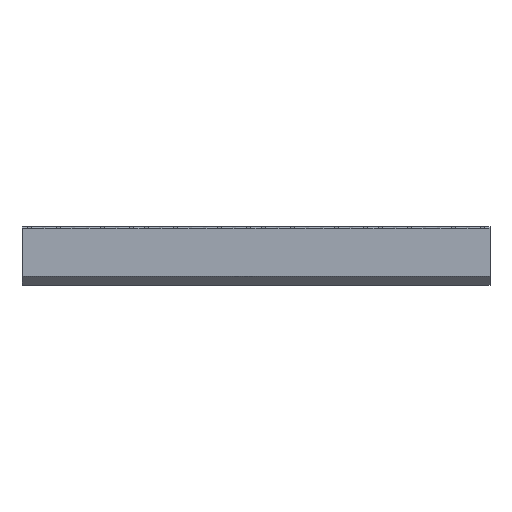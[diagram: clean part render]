
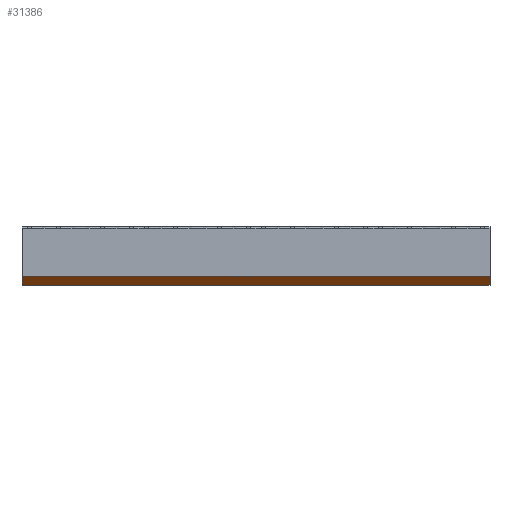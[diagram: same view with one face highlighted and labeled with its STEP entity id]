
A CAD part, front view. The second image highlights one B-rep face of the part: STEP entity #31386.
In plain terms, the highlighted planar face has unit normal (0, -0.707, -0.707).
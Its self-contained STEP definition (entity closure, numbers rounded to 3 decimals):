
#761 = ORIENTED_EDGE ( 'NONE', *, *, #31395, .F. ) ;
#878 = ORIENTED_EDGE ( 'NONE', *, *, #66633, .F. ) ;
#889 = ORIENTED_EDGE ( 'NONE', *, *, #909, .F. ) ;
#909 = EDGE_CURVE ( 'NONE', #43966, #51530, #30510, .T. ) ;
#3356 = DIRECTION ( 'NONE',  ( 0., 0.707, -0.707 ) ) ;
#5118 = VECTOR ( 'NONE', #55171, 1000. ) ;
#6215 = EDGE_CURVE ( 'NONE', #63762, #59902, #60165, .T. ) ;
#7088 = AXIS2_PLACEMENT_3D ( 'NONE', #29322, #50325, #3356 ) ;
#8173 = CARTESIAN_POINT ( 'NONE',  ( -80., -25., 3. ) ) ;
#8600 = PLANE ( 'NONE',  #7088 ) ;
#19879 = LINE ( 'NONE', #33951, #5118 ) ;
#20731 = FACE_OUTER_BOUND ( 'NONE', #30600, .T. ) ;
#24718 = VECTOR ( 'NONE', #34881, 1000. ) ;
#29322 = CARTESIAN_POINT ( 'NONE',  ( -80., -25., 3. ) ) ;
#29907 = CARTESIAN_POINT ( 'NONE',  ( -80., -22., 0. ) ) ;
#30510 = LINE ( 'NONE', #36476, #56901 ) ;
#30600 = EDGE_LOOP ( 'NONE', ( #878, #889, #761, #41122 ) ) ;
#31386 = ADVANCED_FACE ( 'NONE', ( #20731 ), #8600, .T. ) ;
#31395 = EDGE_CURVE ( 'NONE', #59902, #43966, #19879, .T. ) ;
#31510 = CARTESIAN_POINT ( 'NONE',  ( 80., -25., 3. ) ) ;
#33951 = CARTESIAN_POINT ( 'NONE',  ( 80., -25., 3. ) ) ;
#34881 = DIRECTION ( 'NONE',  ( 0., -0.707, 0.707 ) ) ;
#36476 = CARTESIAN_POINT ( 'NONE',  ( -80., -22., 0. ) ) ;
#41122 = ORIENTED_EDGE ( 'NONE', *, *, #6215, .F. ) ;
#42580 = DIRECTION ( 'NONE',  ( 1., 0., 0. ) ) ;
#43966 = VERTEX_POINT ( 'NONE', #61670 ) ;
#50325 = DIRECTION ( 'NONE',  ( 0., -0.707, -0.707 ) ) ;
#51530 = VERTEX_POINT ( 'NONE', #29907 ) ;
#53696 = CARTESIAN_POINT ( 'NONE',  ( 80., -25., 3. ) ) ;
#55171 = DIRECTION ( 'NONE',  ( 0., 0.707, -0.707 ) ) ;
#56074 = LINE ( 'NONE', #8173, #24718 ) ;
#56901 = VECTOR ( 'NONE', #62971, 1000. ) ;
#59902 = VERTEX_POINT ( 'NONE', #53696 ) ;
#60165 = LINE ( 'NONE', #31510, #65105 ) ;
#61670 = CARTESIAN_POINT ( 'NONE',  ( 80., -22., 0. ) ) ;
#62971 = DIRECTION ( 'NONE',  ( -1., 0., 0. ) ) ;
#63762 = VERTEX_POINT ( 'NONE', #64417 ) ;
#64417 = CARTESIAN_POINT ( 'NONE',  ( -80., -25., 3. ) ) ;
#65105 = VECTOR ( 'NONE', #42580, 1000. ) ;
#66633 = EDGE_CURVE ( 'NONE', #51530, #63762, #56074, .T. ) ;
